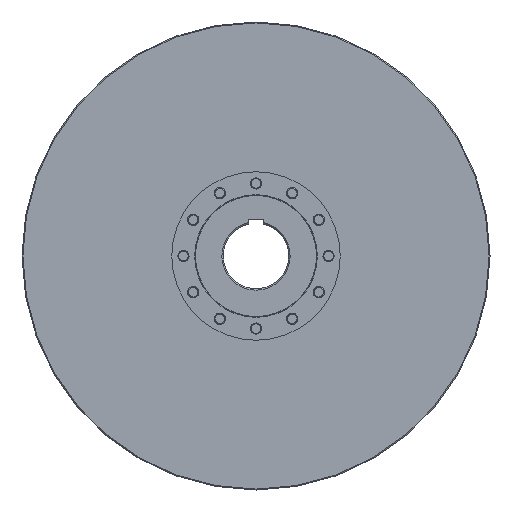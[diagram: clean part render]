
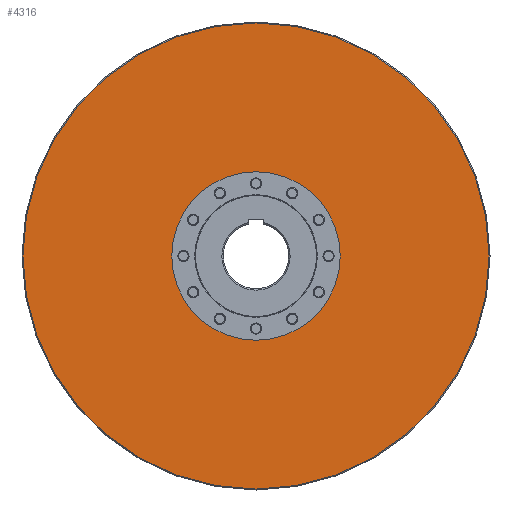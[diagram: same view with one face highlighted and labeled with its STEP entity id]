
A CAD part, left-side view. The second image highlights one B-rep face of the part: STEP entity #4316.
In plain terms, the highlighted planar face has unit normal (-1, 0, 0).
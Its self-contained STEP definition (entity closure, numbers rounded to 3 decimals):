
#612=FACE_BOUND('',#1175,.T.);
#847=FACE_OUTER_BOUND('',#1174,.T.);
#1174=EDGE_LOOP('',(#2848));
#1175=EDGE_LOOP('',(#2849));
#1736=CIRCLE('',#4661,498.);
#1737=CIRCLE('',#4662,180.);
#1968=VERTEX_POINT('',#6513);
#1969=VERTEX_POINT('',#6515);
#2362=EDGE_CURVE('',#1968,#1968,#1736,.T.);
#2363=EDGE_CURVE('',#1969,#1969,#1737,.T.);
#2848=ORIENTED_EDGE('',*,*,#2362,.F.);
#2849=ORIENTED_EDGE('',*,*,#2363,.F.);
#3820=PLANE('',#4660);
#4316=ADVANCED_FACE('',(#847,#612),#3820,.F.);
#4660=AXIS2_PLACEMENT_3D('',#6512,#5221,#5222);
#4661=AXIS2_PLACEMENT_3D('',#6514,#5223,#5224);
#4662=AXIS2_PLACEMENT_3D('',#6516,#5225,#5226);
#5221=DIRECTION('center_axis',(1.,0.,0.));
#5222=DIRECTION('ref_axis',(0.,1.,0.));
#5223=DIRECTION('center_axis',(1.,0.,0.));
#5224=DIRECTION('ref_axis',(0.,-1.,0.));
#5225=DIRECTION('center_axis',(-1.,0.,0.));
#5226=DIRECTION('ref_axis',(0.,-1.,0.));
#6512=CARTESIAN_POINT('Origin',(-123.75,640.121,0.));
#6513=CARTESIAN_POINT('',(-123.75,498.,0.));
#6514=CARTESIAN_POINT('Origin',(-123.75,0.,0.));
#6515=CARTESIAN_POINT('',(-123.75,180.,0.));
#6516=CARTESIAN_POINT('Origin',(-123.75,0.,0.));
